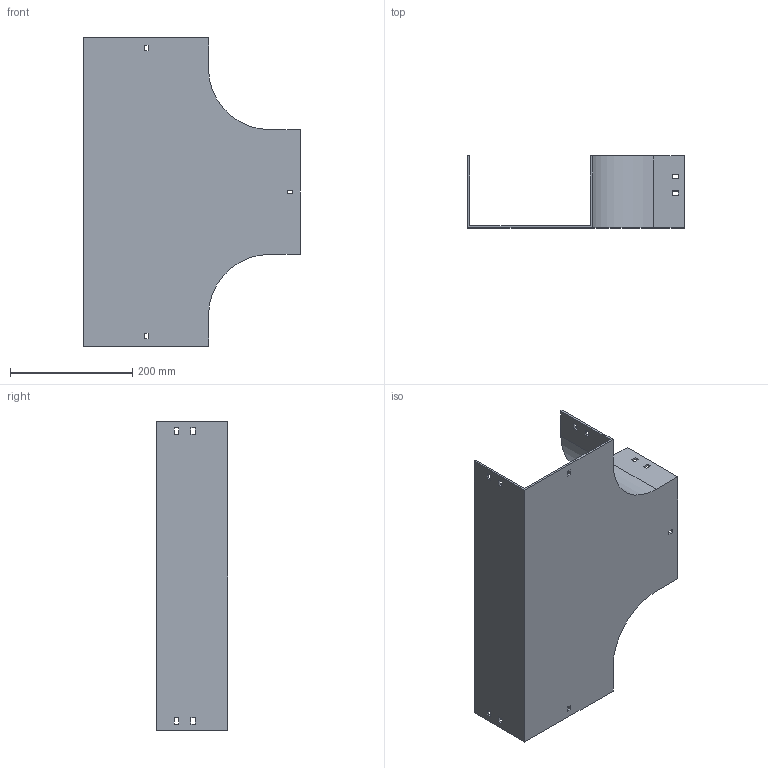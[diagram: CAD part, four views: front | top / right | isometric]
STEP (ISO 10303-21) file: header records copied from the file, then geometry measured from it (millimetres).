
FILE_DESCRIPTION (( 'STEP AP214' ), '1' );
FILE_NAME ('15B1J200.step', '2025-02-21T09:53:40', ( '' ), ( '' ), 'SwSTEP 2.0', 'SolidWorks 2023', '' );
FILE_SCHEMA (( 'AUTOMOTIVE_DESIGN' ));
Length unit declared in the file: millimetre
Products named in the file (1): 15B1J200
Bounding box: 354 x 117.5 x 504 mm (x, y, z)
Volume: 886863 mm3; surface area: 516631.9 mm2
Topology: 1 solids, 1 shells, 82 faces, 240 edges, 160 vertices
Faces by surface type: plane 78, cylinder 4
Entity records: 2755 total; most frequent: CARTESIAN_POINT 483, ORIENTED_EDGE 480, DIRECTION 414, EDGE_CURVE 240, VECTOR 232, LINE 232, VERTEX_POINT 160, EDGE_LOOP 112
